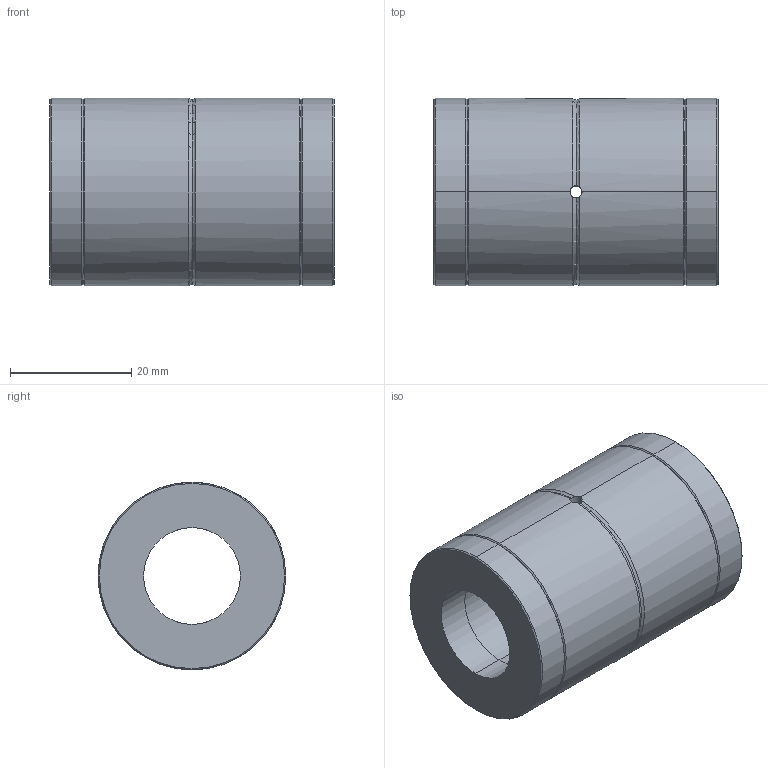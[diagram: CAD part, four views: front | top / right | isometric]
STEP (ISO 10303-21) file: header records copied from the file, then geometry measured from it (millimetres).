
FILE_DESCRIPTION (( 'STEP AP203' ), '1' );
FILE_NAME ('KLT016T2.STEP', '2023-08-11T07:25:40', ( 'Microsoft' ), ( 'Microsoft' ), 'SwSTEP 2.0', 'SolidWorks 2022', '' );
FILE_SCHEMA (( 'CONFIG_CONTROL_DESIGN' ));
Length unit declared in the file: millimetre
Products named in the file (4): KLT016T2; 零件4^KLT016T2; 零件6^KLT016T2; 零件7^KLT016T2
Assembly tree (3 placements, depth 2):
  KLT016T2
    零件4^KLT016T2
    零件6^KLT016T2
    零件7^KLT016T2
Bounding box: 47 x 31 x 31 mm (x, y, z)
Volume: 25837.2 mm3; surface area: 10357.8 mm2
Topology: 3 solids, 3 shells, 47 faces, 115 edges, 70 vertices
Faces by surface type: cylinder 20, cone 12, plane 9, torus 6
Entity records: 1990 total; most frequent: CARTESIAN_POINT 470, DIRECTION 242, ORIENTED_EDGE 230, EDGE_CURVE 115, AXIS2_PLACEMENT_3D 100, VERTEX_POINT 70, EDGE_LOOP 53, ADVANCED_FACE 47
